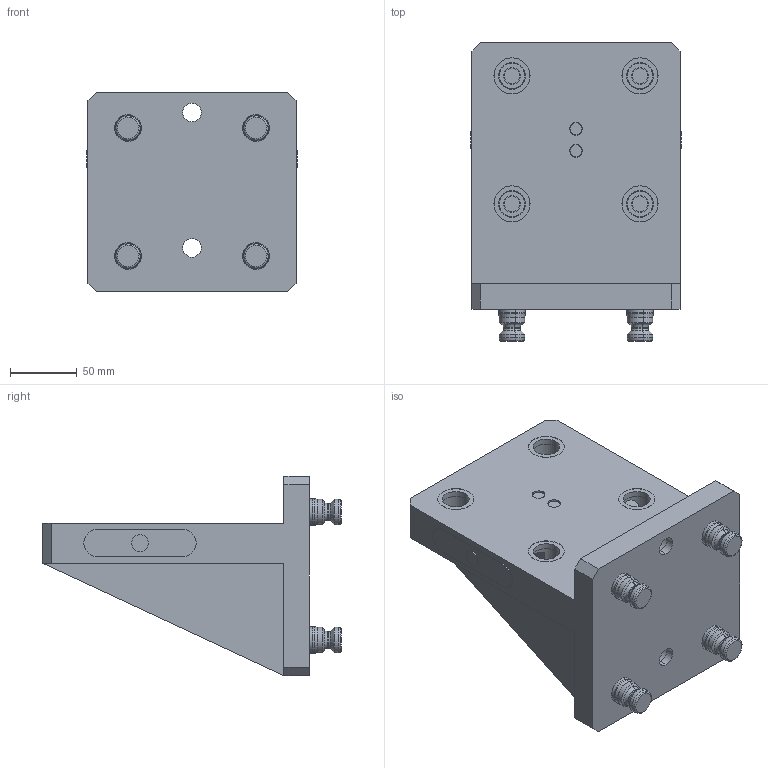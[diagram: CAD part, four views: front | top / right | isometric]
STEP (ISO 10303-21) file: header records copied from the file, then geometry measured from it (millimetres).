
FILE_DESCRIPTION (( 'STEP AP214' ), '1' );
FILE_NAME ('D_RL96A-90DEG.STEP', '2020-03-11T16:22:32', ( '' ), ( '' ), 'SwSTEP 2.0', 'SolidWorks 2018', '' );
FILE_SCHEMA (( 'AUTOMOTIVE_DESIGN' ));
Length unit declared in the file: millimetre
Products named in the file (3): D_RL96A-90DEG; D_PS20F_HARD TURN
Assembly tree (5 placements, depth 2):
  D_RL96A-90DEG
    D_RL96A-90DEG
    D_PS20F_HARD TURN  x4
Bounding box: 158 x 224 x 149.38 mm (x, y, z)
Volume: 1452604.8 mm3; surface area: 200153.8 mm2
Topology: 5 solids, 5 shells, 350 faces, 762 edges, 460 vertices
Faces by surface type: cylinder 148, plane 94, torus 64, cone 44
Entity records: 7917 total; most frequent: CARTESIAN_POINT 1615, DIRECTION 1274, ORIENTED_EDGE 1068, EDGE_CURVE 534, AXIS2_PLACEMENT_3D 519, VERTEX_POINT 340, EDGE_LOOP 284, CIRCLE 278
